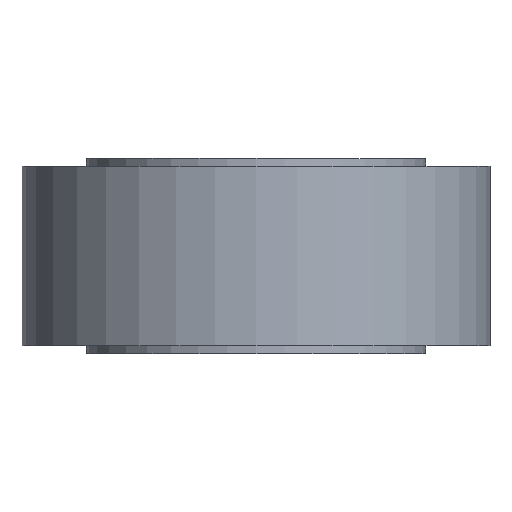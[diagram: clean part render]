
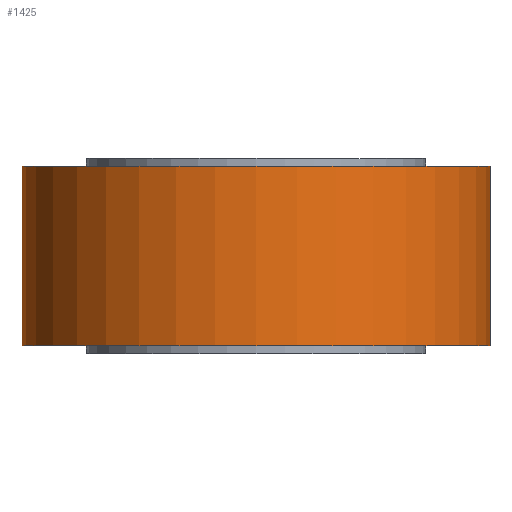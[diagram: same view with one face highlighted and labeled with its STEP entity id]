
A CAD part, front view. The second image highlights one B-rep face of the part: STEP entity #1425.
In plain terms, the highlighted cylindrical face has radius 30 mm (diameter 60 mm), a full revolution.
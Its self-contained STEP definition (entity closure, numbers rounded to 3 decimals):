
#30=B_SPLINE_CURVE_WITH_KNOTS('',3,(#2361,#2362,#2363,#2364,#2365,#2366,
#2367,#2368,#2369,#2370,#2371,#2372,#2373,#2374,#2375,#2376,#2377,#2378,
#2379),.UNSPECIFIED.,.F.,.F.,(4,2,2,2,3,2,2,2,4),(2.834,3.07,
3.306,3.543,3.779,4.015,4.251,
4.487,4.724),.UNSPECIFIED.);
#31=B_SPLINE_CURVE_WITH_KNOTS('',3,(#2380,#2381,#2382,#2383,#2384,#2385,
#2386,#2387,#2388,#2389,#2390,#2391,#2392,#2393,#2394,#2395,#2396,#2397),
 .UNSPECIFIED.,.F.,.F.,(4,2,2,2,2,2,2,2,4),(0.945,1.181,
1.417,1.653,1.889,2.126,2.362,
2.598,2.834),.UNSPECIFIED.);
#64=FACE_BOUND('',#228,.T.);
#133=FACE_OUTER_BOUND('',#227,.T.);
#227=EDGE_LOOP('',(#1034,#1035,#1036,#1037,#1038,#1039));
#228=EDGE_LOOP('',(#1040,#1041));
#316=LINE('',#2355,#384);
#384=VECTOR('',#1867,30.);
#480=CIRCLE('',#1569,30.);
#481=CIRCLE('',#1570,30.);
#482=CIRCLE('',#1572,30.);
#483=CIRCLE('',#1573,30.);
#610=VERTEX_POINT('',#2349);
#611=VERTEX_POINT('',#2350);
#612=VERTEX_POINT('',#2354);
#613=VERTEX_POINT('',#2356);
#614=VERTEX_POINT('',#2359);
#615=VERTEX_POINT('',#2360);
#773=EDGE_CURVE('',#610,#611,#480,.T.);
#774=EDGE_CURVE('',#611,#610,#481,.T.);
#775=EDGE_CURVE('',#611,#612,#316,.T.);
#776=EDGE_CURVE('',#612,#613,#482,.T.);
#777=EDGE_CURVE('',#613,#612,#483,.T.);
#778=EDGE_CURVE('',#614,#615,#30,.T.);
#779=EDGE_CURVE('',#615,#614,#31,.T.);
#1034=ORIENTED_EDGE('',*,*,#773,.F.);
#1035=ORIENTED_EDGE('',*,*,#774,.F.);
#1036=ORIENTED_EDGE('',*,*,#775,.T.);
#1037=ORIENTED_EDGE('',*,*,#776,.T.);
#1038=ORIENTED_EDGE('',*,*,#777,.T.);
#1039=ORIENTED_EDGE('',*,*,#775,.F.);
#1040=ORIENTED_EDGE('',*,*,#778,.T.);
#1041=ORIENTED_EDGE('',*,*,#779,.T.);
#1380=CYLINDRICAL_SURFACE('',#1571,30.);
#1425=ADVANCED_FACE('',(#133,#64),#1380,.T.);
#1569=AXIS2_PLACEMENT_3D('',#2351,#1861,#1862);
#1570=AXIS2_PLACEMENT_3D('',#2352,#1863,#1864);
#1571=AXIS2_PLACEMENT_3D('',#2353,#1865,#1866);
#1572=AXIS2_PLACEMENT_3D('',#2357,#1868,#1869);
#1573=AXIS2_PLACEMENT_3D('',#2358,#1870,#1871);
#1861=DIRECTION('center_axis',(0.,0.,1.));
#1862=DIRECTION('ref_axis',(1.,0.,0.));
#1863=DIRECTION('center_axis',(0.,0.,1.));
#1864=DIRECTION('ref_axis',(1.,0.,0.));
#1865=DIRECTION('center_axis',(0.,0.,1.));
#1866=DIRECTION('ref_axis',(1.,0.,0.));
#1867=DIRECTION('',(0.,0.,-1.));
#1868=DIRECTION('center_axis',(0.,0.,1.));
#1869=DIRECTION('ref_axis',(1.,0.,0.));
#1870=DIRECTION('center_axis',(0.,0.,1.));
#1871=DIRECTION('ref_axis',(1.,0.,0.));
#2349=CARTESIAN_POINT('',(30.,0.,24.));
#2350=CARTESIAN_POINT('',(-30.,0.,24.));
#2351=CARTESIAN_POINT('Origin',(0.,0.,24.));
#2352=CARTESIAN_POINT('Origin',(0.,0.,24.));
#2353=CARTESIAN_POINT('Origin',(0.,0.,12.5));
#2354=CARTESIAN_POINT('',(-30.,0.,1.));
#2355=CARTESIAN_POINT('',(-30.,0.,12.5));
#2356=CARTESIAN_POINT('',(30.,0.,1.));
#2357=CARTESIAN_POINT('Origin',(0.,0.,1.));
#2358=CARTESIAN_POINT('Origin',(0.,0.,1.));
#2359=CARTESIAN_POINT('',(0.,30.,6.25));
#2360=CARTESIAN_POINT('',(0.,30.,18.75));
#2361=CARTESIAN_POINT('Ctrl Pts',(0.,30.,6.25));
#2362=CARTESIAN_POINT('Ctrl Pts',(0.787,30.,6.25));
#2363=CARTESIAN_POINT('Ctrl Pts',(1.625,29.966,6.408));
#2364=CARTESIAN_POINT('Ctrl Pts',(3.165,29.843,7.046));
#2365=CARTESIAN_POINT('Ctrl Pts',(3.866,29.755,7.527));
#2366=CARTESIAN_POINT('Ctrl Pts',(4.973,29.59,8.634));
#2367=CARTESIAN_POINT('Ctrl Pts',(5.454,29.502,9.335));
#2368=CARTESIAN_POINT('Ctrl Pts',(6.092,29.377,10.875));
#2369=CARTESIAN_POINT('Ctrl Pts',(6.25,29.342,11.713));
#2370=CARTESIAN_POINT('Ctrl Pts',(6.25,29.342,12.5));
#2371=CARTESIAN_POINT('Ctrl Pts',(6.25,29.342,13.287));
#2372=CARTESIAN_POINT('Ctrl Pts',(6.092,29.377,14.125));
#2373=CARTESIAN_POINT('Ctrl Pts',(5.454,29.502,15.665));
#2374=CARTESIAN_POINT('Ctrl Pts',(4.973,29.59,16.366));
#2375=CARTESIAN_POINT('Ctrl Pts',(3.866,29.755,17.473));
#2376=CARTESIAN_POINT('Ctrl Pts',(3.165,29.843,17.954));
#2377=CARTESIAN_POINT('Ctrl Pts',(1.625,29.966,18.592));
#2378=CARTESIAN_POINT('Ctrl Pts',(0.787,30.,18.75));
#2379=CARTESIAN_POINT('Ctrl Pts',(0.,30.,18.75));
#2380=CARTESIAN_POINT('Ctrl Pts',(0.,30.,18.75));
#2381=CARTESIAN_POINT('Ctrl Pts',(-0.787,30.,18.75));
#2382=CARTESIAN_POINT('Ctrl Pts',(-1.625,29.966,18.592));
#2383=CARTESIAN_POINT('Ctrl Pts',(-3.165,29.843,17.954));
#2384=CARTESIAN_POINT('Ctrl Pts',(-3.866,29.755,17.473));
#2385=CARTESIAN_POINT('Ctrl Pts',(-4.973,29.59,16.366));
#2386=CARTESIAN_POINT('Ctrl Pts',(-5.454,29.502,15.665));
#2387=CARTESIAN_POINT('Ctrl Pts',(-6.092,29.377,14.125));
#2388=CARTESIAN_POINT('Ctrl Pts',(-6.25,29.342,13.287));
#2389=CARTESIAN_POINT('Ctrl Pts',(-6.25,29.342,11.713));
#2390=CARTESIAN_POINT('Ctrl Pts',(-6.092,29.377,10.875));
#2391=CARTESIAN_POINT('Ctrl Pts',(-5.454,29.502,9.335));
#2392=CARTESIAN_POINT('Ctrl Pts',(-4.973,29.59,8.634));
#2393=CARTESIAN_POINT('Ctrl Pts',(-3.866,29.755,7.527));
#2394=CARTESIAN_POINT('Ctrl Pts',(-3.165,29.843,7.046));
#2395=CARTESIAN_POINT('Ctrl Pts',(-1.625,29.966,6.408));
#2396=CARTESIAN_POINT('Ctrl Pts',(-0.787,30.,6.25));
#2397=CARTESIAN_POINT('Ctrl Pts',(0.,30.,6.25));
